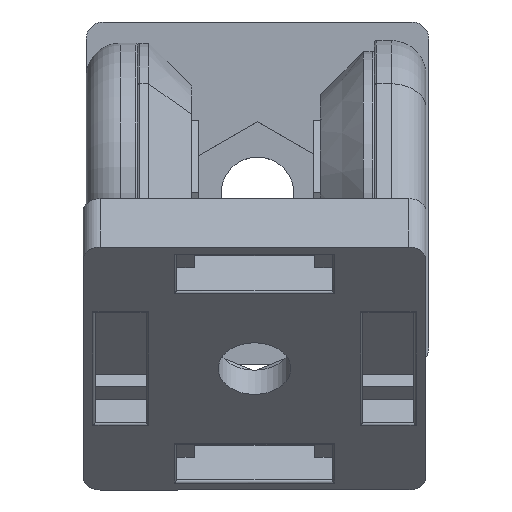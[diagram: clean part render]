
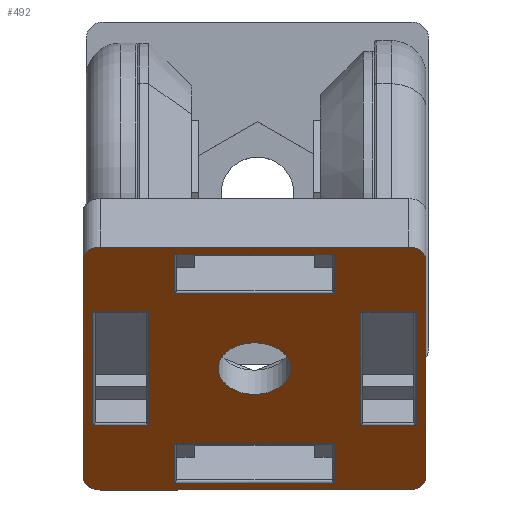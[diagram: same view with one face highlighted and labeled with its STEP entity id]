
A CAD part, top view. The second image highlights one B-rep face of the part: STEP entity #492.
In plain terms, the highlighted planar face has unit normal (0, -0.707, 0.707) as drawn and (0, 0, -1) by its records, which use the part's own axes.
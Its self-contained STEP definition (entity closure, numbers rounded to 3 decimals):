
#98=CARTESIAN_POINT('',(1.15,29.35,-8.0));
#99=VERTEX_POINT('',#98);
#107=CARTESIAN_POINT('',(7.65,29.35,-8.0));
#108=VERTEX_POINT('',#107);
#109=CARTESIAN_POINT('',(1.15,29.35,-8.0));
#110=DIRECTION('',(1.0,0.0,0.0));
#111=VECTOR('',#110,6.5);
#112=LINE('',#109,#111);
#113=EDGE_CURVE('',#99,#108,#112,.T.);
#140=CARTESIAN_POINT('',(7.65,10.65,-8.0));
#141=VERTEX_POINT('',#140);
#149=CARTESIAN_POINT('',(1.15,10.65,-8.0));
#150=VERTEX_POINT('',#149);
#151=CARTESIAN_POINT('',(7.65,10.65,-8.0));
#152=DIRECTION('',(-1.0,0.0,0.0));
#153=VECTOR('',#152,6.5);
#154=LINE('',#151,#153);
#155=EDGE_CURVE('',#141,#150,#154,.T.);
#179=CARTESIAN_POINT('',(7.65,29.35,-8.0));
#180=DIRECTION('',(0.0,-1.0,0.0));
#181=VECTOR('',#180,18.7);
#182=LINE('',#179,#181);
#183=EDGE_CURVE('',#108,#141,#182,.T.);
#201=CARTESIAN_POINT('',(1.15,10.65,-8.0));
#202=DIRECTION('',(0.0,1.0,0.0));
#203=VECTOR('',#202,18.7);
#204=LINE('',#201,#203);
#205=EDGE_CURVE('',#150,#99,#204,.T.);
#298=CARTESIAN_POINT('',(20.0,20.0,-8.0));
#299=DIRECTION('',(0.0,0.0,1.0));
#300=DIRECTION('',(1.0,0.0,0.0));
#301=AXIS2_PLACEMENT_3D('',#298,#299,#300);
#302=PLANE('',#301);
#303=CARTESIAN_POINT('',(40.0,38.0,-8.0));
#304=VERTEX_POINT('',#303);
#305=CARTESIAN_POINT('',(38.0,40.0,-8.0));
#306=VERTEX_POINT('',#305);
#307=CARTESIAN_POINT('',(38.0,38.0,-8.0));
#308=DIRECTION('',(0.0,0.0,1.));
#309=DIRECTION('',(0.707,0.707,0.0));
#310=AXIS2_PLACEMENT_3D('',#307,#308,#309);
#311=CIRCLE('',#310,2.);
#312=EDGE_CURVE('',#304,#306,#311,.T.);
#313=ORIENTED_EDGE('',*,*,#312,.F.);
#314=CARTESIAN_POINT('',(40.0,2.0,-8.0));
#315=VERTEX_POINT('',#314);
#316=CARTESIAN_POINT('',(40.0,2.0,-8.0));
#317=DIRECTION('',(0.0,1.0,0.0));
#318=VECTOR('',#317,36.0);
#319=LINE('',#316,#318);
#320=EDGE_CURVE('',#315,#304,#319,.T.);
#321=ORIENTED_EDGE('',*,*,#320,.F.);
#322=CARTESIAN_POINT('',(38.0,0.0,-8.0));
#323=VERTEX_POINT('',#322);
#324=CARTESIAN_POINT('',(38.0,2.0,-8.0));
#325=DIRECTION('',(0.0,0.0,1.));
#326=DIRECTION('',(0.707,-0.707,0.0));
#327=AXIS2_PLACEMENT_3D('',#324,#325,#326);
#328=CIRCLE('',#327,2.0);
#329=EDGE_CURVE('',#323,#315,#328,.T.);
#330=ORIENTED_EDGE('',*,*,#329,.F.);
#331=CARTESIAN_POINT('',(2.0,0.0,-8.0));
#332=VERTEX_POINT('',#331);
#333=CARTESIAN_POINT('',(2.0,0.0,-8.0));
#334=DIRECTION('',(1.0,0.0,0.0));
#335=VECTOR('',#334,36.0);
#336=LINE('',#333,#335);
#337=EDGE_CURVE('',#332,#323,#336,.T.);
#338=ORIENTED_EDGE('',*,*,#337,.F.);
#339=CARTESIAN_POINT('',(0.0,2.,-8.0));
#340=VERTEX_POINT('',#339);
#341=CARTESIAN_POINT('',(2.0,2.,-8.0));
#342=DIRECTION('',(0.0,0.0,1.));
#343=DIRECTION('',(-0.707,-0.707,0.0));
#344=AXIS2_PLACEMENT_3D('',#341,#342,#343);
#345=CIRCLE('',#344,2.0);
#346=EDGE_CURVE('',#340,#332,#345,.T.);
#347=ORIENTED_EDGE('',*,*,#346,.F.);
#348=CARTESIAN_POINT('',(0.0,38.0,-8.0));
#349=VERTEX_POINT('',#348);
#350=CARTESIAN_POINT('',(0.0,38.0,-8.0));
#351=DIRECTION('',(0.0,-1.0,0.0));
#352=VECTOR('',#351,36.0);
#353=LINE('',#350,#352);
#354=EDGE_CURVE('',#349,#340,#353,.T.);
#355=ORIENTED_EDGE('',*,*,#354,.F.);
#356=CARTESIAN_POINT('',(2.,40.0,-8.0));
#357=VERTEX_POINT('',#356);
#358=CARTESIAN_POINT('',(2.,38.0,-8.0));
#359=DIRECTION('',(0.0,0.0,1.));
#360=DIRECTION('',(-0.707,0.707,0.0));
#361=AXIS2_PLACEMENT_3D('',#358,#359,#360);
#362=CIRCLE('',#361,2.);
#363=EDGE_CURVE('',#357,#349,#362,.T.);
#364=ORIENTED_EDGE('',*,*,#363,.F.);
#365=CARTESIAN_POINT('',(38.0,40.0,-8.0));
#366=DIRECTION('',(-1.0,0.0,0.0));
#367=VECTOR('',#366,36.0);
#368=LINE('',#365,#367);
#369=EDGE_CURVE('',#306,#357,#368,.T.);
#370=ORIENTED_EDGE('',*,*,#369,.F.);
#371=EDGE_LOOP('',(#313,#321,#330,#338,#347,#355,#364,#370));
#372=FACE_OUTER_BOUND('',#371,.T.);
#373=CARTESIAN_POINT('',(38.85,29.35,-8.0));
#374=VERTEX_POINT('',#373);
#375=CARTESIAN_POINT('',(38.85,10.65,-8.0));
#376=VERTEX_POINT('',#375);
#377=CARTESIAN_POINT('',(38.85,29.35,-8.0));
#378=DIRECTION('',(0.0,-1.0,0.0));
#379=VECTOR('',#378,18.7);
#380=LINE('',#377,#379);
#381=EDGE_CURVE('',#374,#376,#380,.T.);
#382=ORIENTED_EDGE('',*,*,#381,.F.);
#383=CARTESIAN_POINT('',(32.35,29.35,-8.0));
#384=VERTEX_POINT('',#383);
#385=CARTESIAN_POINT('',(32.35,29.35,-8.0));
#386=DIRECTION('',(1.0,0.0,0.0));
#387=VECTOR('',#386,6.5);
#388=LINE('',#385,#387);
#389=EDGE_CURVE('',#384,#374,#388,.T.);
#390=ORIENTED_EDGE('',*,*,#389,.F.);
#391=CARTESIAN_POINT('',(32.35,10.65,-8.0));
#392=VERTEX_POINT('',#391);
#393=CARTESIAN_POINT('',(32.35,10.65,-8.0));
#394=DIRECTION('',(0.0,1.0,0.0));
#395=VECTOR('',#394,18.7);
#396=LINE('',#393,#395);
#397=EDGE_CURVE('',#392,#384,#396,.T.);
#398=ORIENTED_EDGE('',*,*,#397,.F.);
#399=CARTESIAN_POINT('',(38.85,10.65,-8.0));
#400=DIRECTION('',(-1.0,0.0,0.0));
#401=VECTOR('',#400,6.5);
#402=LINE('',#399,#401);
#403=EDGE_CURVE('',#376,#392,#402,.T.);
#404=ORIENTED_EDGE('',*,*,#403,.F.);
#405=EDGE_LOOP('',(#382,#390,#398,#404));
#406=FACE_BOUND('',#405,.T.);
#407=CARTESIAN_POINT('',(29.35,7.65,-8.0));
#408=VERTEX_POINT('',#407);
#409=CARTESIAN_POINT('',(29.35,1.15,-8.0));
#410=VERTEX_POINT('',#409);
#411=CARTESIAN_POINT('',(29.35,7.65,-8.0));
#412=DIRECTION('',(0.0,-1.0,0.0));
#413=VECTOR('',#412,6.5);
#414=LINE('',#411,#413);
#415=EDGE_CURVE('',#408,#410,#414,.T.);
#416=ORIENTED_EDGE('',*,*,#415,.F.);
#417=CARTESIAN_POINT('',(10.65,7.65,-8.0));
#418=VERTEX_POINT('',#417);
#419=CARTESIAN_POINT('',(10.65,7.65,-8.0));
#420=DIRECTION('',(1.0,0.0,0.0));
#421=VECTOR('',#420,18.7);
#422=LINE('',#419,#421);
#423=EDGE_CURVE('',#418,#408,#422,.T.);
#424=ORIENTED_EDGE('',*,*,#423,.F.);
#425=CARTESIAN_POINT('',(10.65,1.15,-8.0));
#426=VERTEX_POINT('',#425);
#427=CARTESIAN_POINT('',(10.65,1.15,-8.0));
#428=DIRECTION('',(0.0,1.0,0.0));
#429=VECTOR('',#428,6.5);
#430=LINE('',#427,#429);
#431=EDGE_CURVE('',#426,#418,#430,.T.);
#432=ORIENTED_EDGE('',*,*,#431,.F.);
#433=CARTESIAN_POINT('',(29.35,1.15,-8.0));
#434=DIRECTION('',(-1.0,0.0,0.0));
#435=VECTOR('',#434,18.7);
#436=LINE('',#433,#435);
#437=EDGE_CURVE('',#410,#426,#436,.T.);
#438=ORIENTED_EDGE('',*,*,#437,.F.);
#439=EDGE_LOOP('',(#416,#424,#432,#438));
#440=FACE_BOUND('',#439,.T.);
#441=CARTESIAN_POINT('',(15.75,20.0,-8.));
#442=VERTEX_POINT('',#441);
#443=CARTESIAN_POINT('',(20.0,20.0,-8.));
#444=DIRECTION('',(0.0,0.0,1.0));
#445=DIRECTION('',(1.0,0.0,0.0));
#446=AXIS2_PLACEMENT_3D('',#443,#444,#445);
#447=CIRCLE('',#446,4.25);
#448=EDGE_CURVE('',#442,#442,#447,.T.);
#449=ORIENTED_EDGE('',*,*,#448,.T.);
#450=EDGE_LOOP('',(#449));
#451=FACE_BOUND('',#450,.T.);
#452=CARTESIAN_POINT('',(10.65,32.35,-8.0));
#453=VERTEX_POINT('',#452);
#454=CARTESIAN_POINT('',(10.65,38.85,-8.0));
#455=VERTEX_POINT('',#454);
#456=CARTESIAN_POINT('',(10.65,32.35,-8.0));
#457=DIRECTION('',(0.0,1.0,0.0));
#458=VECTOR('',#457,6.5);
#459=LINE('',#456,#458);
#460=EDGE_CURVE('',#453,#455,#459,.T.);
#461=ORIENTED_EDGE('',*,*,#460,.F.);
#462=CARTESIAN_POINT('',(29.35,32.35,-8.0));
#463=VERTEX_POINT('',#462);
#464=CARTESIAN_POINT('',(29.35,32.35,-8.0));
#465=DIRECTION('',(-1.0,0.0,0.0));
#466=VECTOR('',#465,18.7);
#467=LINE('',#464,#466);
#468=EDGE_CURVE('',#463,#453,#467,.T.);
#469=ORIENTED_EDGE('',*,*,#468,.F.);
#470=CARTESIAN_POINT('',(29.35,38.85,-8.0));
#471=VERTEX_POINT('',#470);
#472=CARTESIAN_POINT('',(29.35,38.85,-8.0));
#473=DIRECTION('',(0.0,-1.0,0.0));
#474=VECTOR('',#473,6.5);
#475=LINE('',#472,#474);
#476=EDGE_CURVE('',#471,#463,#475,.T.);
#477=ORIENTED_EDGE('',*,*,#476,.F.);
#478=CARTESIAN_POINT('',(10.65,38.85,-8.0));
#479=DIRECTION('',(1.0,0.0,0.0));
#480=VECTOR('',#479,18.7);
#481=LINE('',#478,#480);
#482=EDGE_CURVE('',#455,#471,#481,.T.);
#483=ORIENTED_EDGE('',*,*,#482,.F.);
#484=EDGE_LOOP('',(#461,#469,#477,#483));
#485=FACE_BOUND('',#484,.T.);
#486=ORIENTED_EDGE('',*,*,#155,.F.);
#487=ORIENTED_EDGE('',*,*,#183,.F.);
#488=ORIENTED_EDGE('',*,*,#113,.F.);
#489=ORIENTED_EDGE('',*,*,#205,.F.);
#490=EDGE_LOOP('',(#486,#487,#488,#489));
#491=FACE_BOUND('',#490,.T.);
#492=ADVANCED_FACE('',(#372,#406,#440,#451,#485,#491),#302,.F.);
